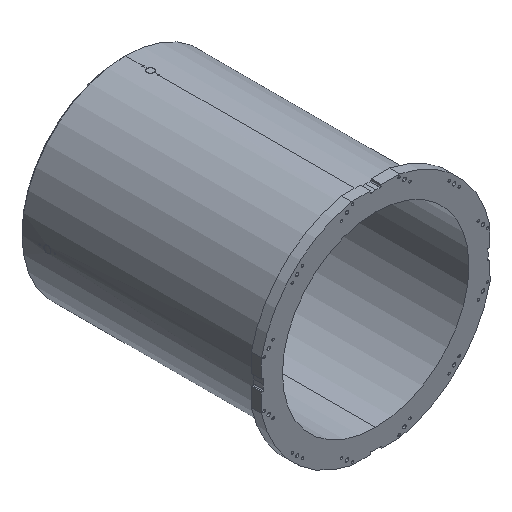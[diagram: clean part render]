
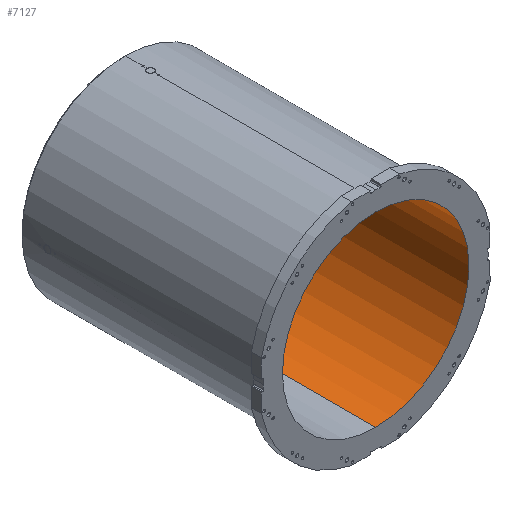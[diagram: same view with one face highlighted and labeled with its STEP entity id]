
A CAD part, isometric view. The second image highlights one B-rep face of the part: STEP entity #7127.
In plain terms, the highlighted cylindrical face has radius 555 mm (diameter 1110 mm), a partial arc.
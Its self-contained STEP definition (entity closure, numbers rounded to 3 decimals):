
#123 = EDGE_CURVE ( 'NONE', #7855, #1098, #5478, .T. ) ;
#198 = EDGE_LOOP ( 'NONE', ( #9556, #10912, #351, #4329 ) ) ;
#351 = ORIENTED_EDGE ( 'NONE', *, *, #13686, .T. ) ;
#392 = DIRECTION ( 'NONE',  ( 0., -1., 0. ) ) ;
#806 = VERTEX_POINT ( 'NONE', #12149 ) ;
#1098 = VERTEX_POINT ( 'NONE', #5329 ) ;
#1415 = DIRECTION ( 'NONE',  ( 0., 1., 0. ) ) ;
#1616 = AXIS2_PLACEMENT_3D ( 'NONE', #7722, #1415, #4487 ) ;
#2143 = CARTESIAN_POINT ( 'NONE',  ( 0., 0., 0. ) ) ;
#2183 = DIRECTION ( 'NONE',  ( 0., 0., -1. ) ) ;
#3267 = DIRECTION ( 'NONE',  ( 0., 0., -1. ) ) ;
#3729 = CARTESIAN_POINT ( 'NONE',  ( 0., 1444., 555. ) ) ;
#4329 = ORIENTED_EDGE ( 'NONE', *, *, #123, .T. ) ;
#4487 = DIRECTION ( 'NONE',  ( 0., 0., -1. ) ) ;
#4836 = LINE ( 'NONE', #9114, #6045 ) ;
#5329 = CARTESIAN_POINT ( 'NONE',  ( 0., 0., 555. ) ) ;
#5420 = CYLINDRICAL_SURFACE ( 'NONE', #9149, 555. ) ;
#5478 = CIRCLE ( 'NONE', #11061, 555. ) ;
#6045 = VECTOR ( 'NONE', #12301, 1000. ) ;
#7127 = ADVANCED_FACE ( 'NONE', ( #8650 ), #5420, .F. ) ;
#7689 = LINE ( 'NONE', #9858, #11821 ) ;
#7722 = CARTESIAN_POINT ( 'NONE',  ( 0., 1444., 0. ) ) ;
#7855 = VERTEX_POINT ( 'NONE', #13789 ) ;
#8482 = CARTESIAN_POINT ( 'NONE',  ( 0., 0., 0. ) ) ;
#8650 = FACE_OUTER_BOUND ( 'NONE', #198, .T. ) ;
#9114 = CARTESIAN_POINT ( 'NONE',  ( 0., 0., 555. ) ) ;
#9149 = AXIS2_PLACEMENT_3D ( 'NONE', #2143, #10943, #3267 ) ;
#9556 = ORIENTED_EDGE ( 'NONE', *, *, #13556, .F. ) ;
#9858 = CARTESIAN_POINT ( 'NONE',  ( 0., 0., -555. ) ) ;
#10815 = VERTEX_POINT ( 'NONE', #3729 ) ;
#10912 = ORIENTED_EDGE ( 'NONE', *, *, #12492, .T. ) ;
#10943 = DIRECTION ( 'NONE',  ( 0., -1., 0. ) ) ;
#11061 = AXIS2_PLACEMENT_3D ( 'NONE', #8482, #12660, #2183 ) ;
#11821 = VECTOR ( 'NONE', #392, 1000. ) ;
#11881 = CIRCLE ( 'NONE', #1616, 555. ) ;
#12149 = CARTESIAN_POINT ( 'NONE',  ( 0., 1444., -555. ) ) ;
#12301 = DIRECTION ( 'NONE',  ( 0., -1., 0. ) ) ;
#12492 = EDGE_CURVE ( 'NONE', #10815, #806, #11881, .T. ) ;
#12660 = DIRECTION ( 'NONE',  ( 0., -1., 0. ) ) ;
#13556 = EDGE_CURVE ( 'NONE', #10815, #1098, #4836, .T. ) ;
#13686 = EDGE_CURVE ( 'NONE', #806, #7855, #7689, .T. ) ;
#13789 = CARTESIAN_POINT ( 'NONE',  ( 0., 0., -555. ) ) ;
